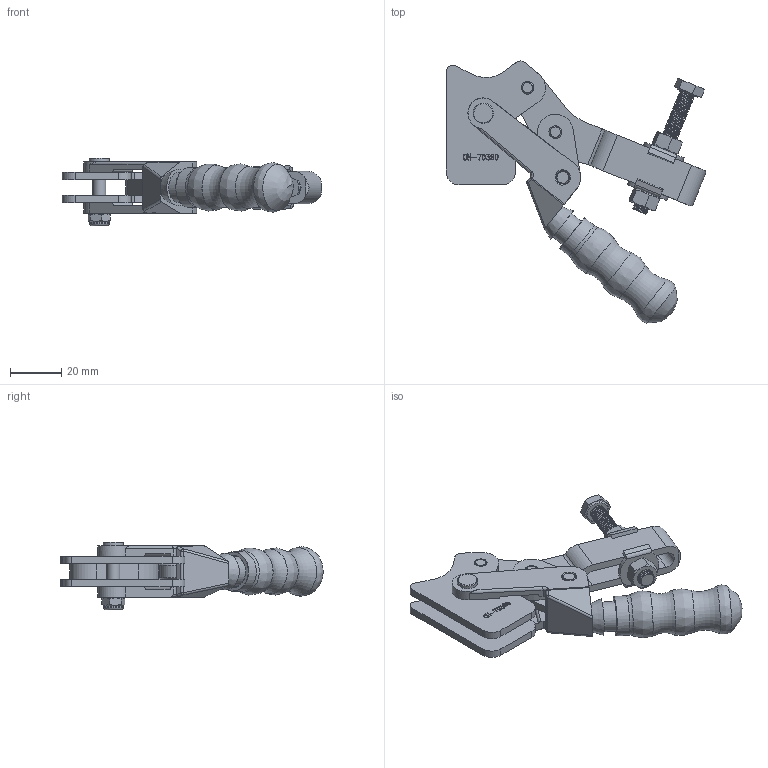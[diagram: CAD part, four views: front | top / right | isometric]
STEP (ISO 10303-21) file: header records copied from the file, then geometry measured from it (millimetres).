
FILE_DESCRIPTION(/* description */ ('STEP AP203'),/* implementation_level */ '2;1');
FILE_NAME(/* name */ 'D:\Vault_2016\Projekty\NASZ KATALOG\CLAMPTEK\STRONA\Heavy duty weldables\CH-70320\CH-70320_OTWARTY.stp',/* time_stamp */ '2019-01-15T15:14:27+01:00',/* author */ ('CADENGINEERING4'),/* organization */ ('Microsoft'),/* preprocessor_version */ 'ST-DEVELOPER v17.2',/* originating_system */ 'Autodesk Inventor 2019',/* authorisation */ '');
FILE_SCHEMA (('AUTOMOTIVE_DESIGN { 1 0 10303 214 3 1 1 }'));
Length unit declared in the file: millimetre
Products named in the file (15): CH-70320_OTWARTY; Ö§¼Ü1; Ö§¼Ü2; ¼Ð¾ßÌå; ºùÂ«Ì×; Ñ¹°Ñ; Á¬¸Ë; ¸ôÌ×; ¶ÌÐ¾Öá; ³¤Ð¾Öá; ÂÝ¸Ë; ·ÀÂÝ; CH-FW-141; hex head bolts-full thread grade c gb_GB_FASTENER_BOLT_HHBFTC M6X50-S; hex nuts, style 2-grades ab gb_GB_HEXAGON_TYPE13 M6 Normal Style-N
Assembly tree (18 placements, depth 2):
  CH-70320_OTWARTY
    Ö§¼Ü1
    Ö§¼Ü2
    ¼Ð¾ßÌå
    ºùÂ«Ì×
    Ñ¹°Ñ
    Á¬¸Ë  x2
    ¸ôÌ×
    ¶ÌÐ¾Öá  x2
    ³¤Ð¾Öá
    ÂÝ¸Ë
    ·ÀÂÝ
    CH-FW-141  x2
    hex head bolts-full thread grade c gb_GB_FASTENER_BOLT_HHBFTC M6X50-S
    hex nuts, style 2-grades ab gb_GB_HEXAGON_TYPE13 M6 Normal Style-N  x2
Bounding box: 101.56 x 102.59 x 26.5 mm (x, y, z)
Volume: 40909.7 mm3; surface area: 31609.7 mm2
Topology: 18 solids, 18 shells, 920 faces, 2596 edges, 1742 vertices
Faces by surface type: plane 343, cone 212, cylinder 178, bspline 169, torus 13, sphere 5
Full cylindrical faces by diameter (mm): 1.65 x1, 1.683 x1, 4.134 x7, 4.917 x2, 5 x20, 5.16 x4, 5.2 x1, 6 x76, 6.8 x2, 7.78 x1, 8 x1, 11.7 x1, 12.517 x1, 12.521 x1, 14 x1, 15.5 x1
Entity records: 37519 total; most frequent: CARTESIAN_POINT 14736, ORIENTED_EDGE 4910, DIRECTION 4390, EDGE_CURVE 2455, VERTEX_POINT 1650, AXIS2_PLACEMENT_3D 1572, LINE 1246, VECTOR 1246
